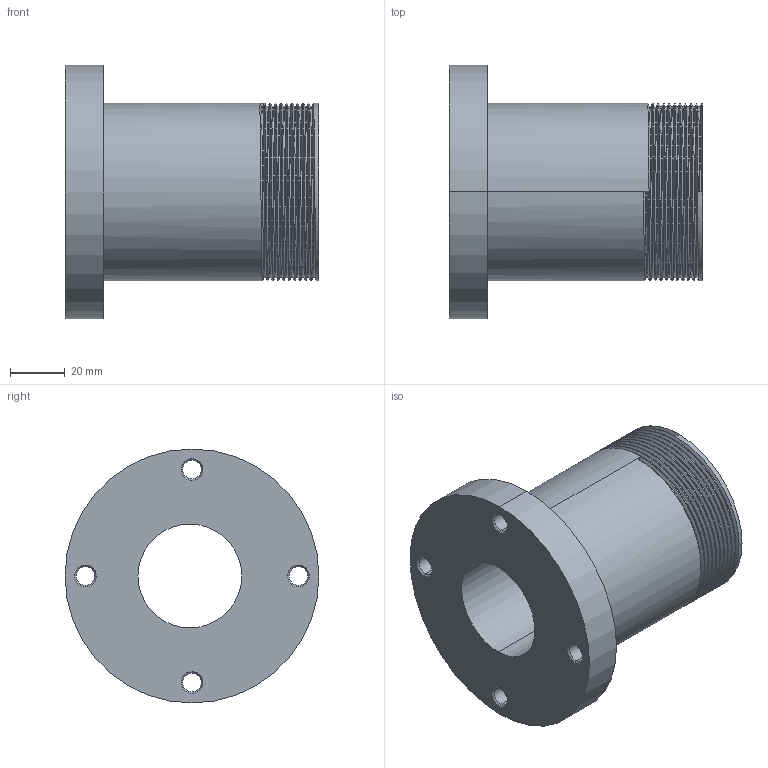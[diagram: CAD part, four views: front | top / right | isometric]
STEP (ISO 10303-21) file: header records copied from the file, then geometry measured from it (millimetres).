
FILE_DESCRIPTION (( 'STEP AP203' ), '1' );
FILE_NAME ('OFM4010-3-T.STEP', '2024-12-20T00:59:03', ( 'Admin' ), ( '' ), 'SwSTEP 2.0', 'SolidWorks 2019', '' );
FILE_SCHEMA (( 'CONFIG_CONTROL_DESIGN' ));
Length unit declared in the file: millimetre
Products named in the file (1): OFM4010-3-T
Bounding box: 93 x 93 x 93 mm (x, y, z)
Volume: 247115.6 mm3; surface area: 45892.9 mm2
Topology: 1 solids, 1 shells, 89 faces, 245 edges, 159 vertices
Faces by surface type: cylinder 43, bspline 29, plane 9, cone 8
Entity records: 15254 total; most frequent: CARTESIAN_POINT 13334, ORIENTED_EDGE 490, DIRECTION 272, EDGE_CURVE 245, VERTEX_POINT 159, EDGE_LOOP 100, AXIS2_PLACEMENT_3D 98, FACE_OUTER_BOUND 89
